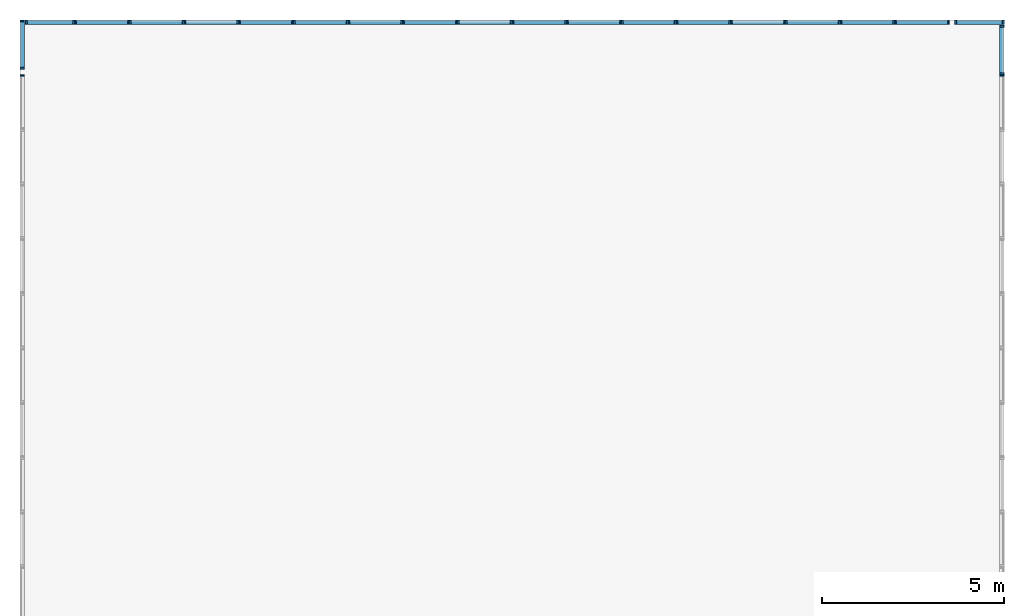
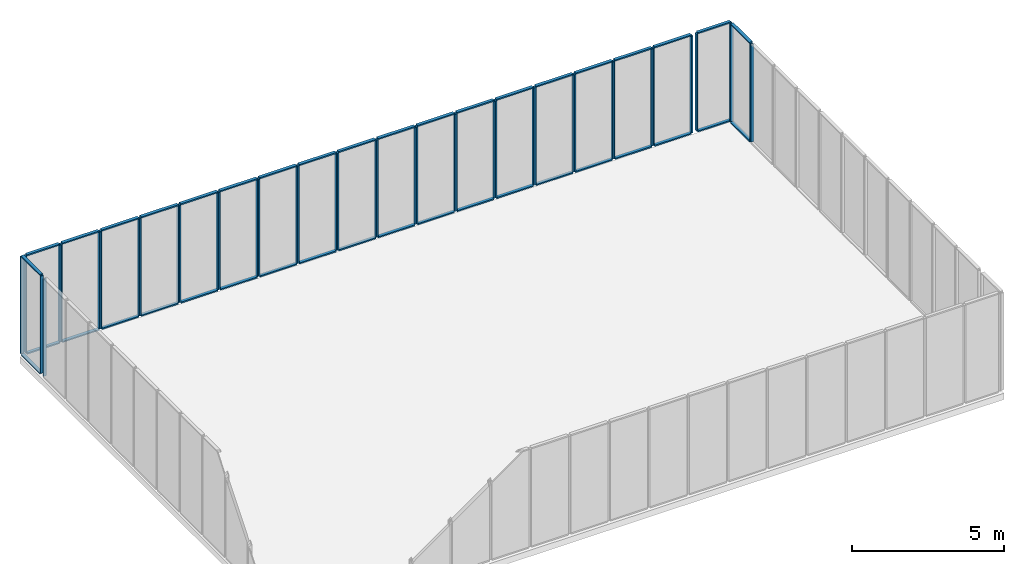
# One storey, part 3 of 4: 82 members.
"""IFC4 building model written with IfcOpenShell, lengths in metres."""

import ifcopenshell
import ifcopenshell.guid

model = None  # the IFC model being written
_history = None  # IfcOwnerHistory: only IFC2X3 demands one
_inside = {}  # id of a spatial element -> (the spatial element, [elements in it])
_under = {}  # id of a project, library or spatial element -> (it, [spatial elements below it])
_declared = {}  # id of a project -> (the project, [libraries it declares])
_typed = {}  # id of a type object -> (the type object, [elements of that type])
_made_of = {}  # id of a material, layer set ... -> (it, [elements and type objects made of it])


def new_model(schema):
    """Start an empty IFC model of exactly this schema.

    Asked for "IFC4X3", IfcOpenShell would pick the latest addendum, in which some entities
    have other attributes; the version numbers below select the first issue.
    IFC2X3 requires an IfcOwnerHistory on every rooted entity: one is made here for all.
    """
    global model, _history
    if schema == "IFC4X3":
        model = ifcopenshell.file(schema_version=(4, 3, 0, 0))
    else:
        model = ifcopenshell.file(schema=schema)
    _inside.clear()
    _under.clear()
    _declared.clear()
    _typed.clear()
    _made_of.clear()
    _history = None
    if model.schema == "IFC2X3":
        org = make("IfcOrganization", Name="unknown")
        user = make(
            "IfcPersonAndOrganization",
            ThePerson=make("IfcPerson", FamilyName="unknown"),
            TheOrganization=org,
        )
        app = make(
            "IfcApplication",
            ApplicationDeveloper=org,
            Version="unknown",
            ApplicationFullName="unknown",
            ApplicationIdentifier="unknown",
        )
        _history = make(
            "IfcOwnerHistory",
            OwningUser=user,
            OwningApplication=app,
            ChangeAction="ADDED",
            CreationDate=0,
        )
    return model


def make(cls, **values):
    """One entity of the class cls with the attributes given. An attribute that is None is left unset."""
    return model.create_entity(
        cls, **{name: value for name, value in values.items() if value is not None}
    )


def rooted(cls, **values):
    """An entity with a GlobalId (a new one), such as an element, a storey or a relation."""
    return make(cls, GlobalId=ifcopenshell.guid.new(), OwnerHistory=_history, **values)


def si_unit(unit_type, name, prefix=None):
    """IfcSIUnit, for example si_unit("LENGTHUNIT", "METRE", prefix="MILLI")."""
    return make("IfcSIUnit", UnitType=unit_type, Prefix=prefix, Name=name)


def assignment(units):
    """IfcUnitAssignment: the units of a project."""
    return None if units is None else make("IfcUnitAssignment", Units=units)


def point(xyz):
    """IfcCartesianPoint."""
    return None if xyz is None else make("IfcCartesianPoint", Coordinates=xyz)


def direction(xyz):
    """IfcDirection."""
    return None if xyz is None else make("IfcDirection", DirectionRatios=xyz)


def frame(location, z_axis=None, x_axis=None):
    """IfcAxis2Placement3D, a coordinate frame: its origin and axes. An axis left out is left unset."""
    return make(
        "IfcAxis2Placement3D",
        Location=point(location),
        Axis=direction(z_axis),
        RefDirection=direction(x_axis),
    )


def origin_with_axes():
    """The frame at (0, 0, 0) with the z axis (0, 0, 1) and the x axis (1, 0, 0) written out."""
    return frame((0.0, 0.0, 0.0), z_axis=(0.0, 0.0, 1.0), x_axis=(1.0, 0.0, 0.0))


def place(relative_to, where):
    """IfcLocalPlacement: puts the frame where relative to a parent placement (None: the world)."""
    return make(
        "IfcLocalPlacement", PlacementRelTo=relative_to, RelativePlacement=where
    )


def context(
    kind, dimensions, precision=None, world=None, true_north=None, identifier=None
):
    """IfcGeometricRepresentationContext, for example the 3D "Model" context."""
    return make(
        "IfcGeometricRepresentationContext",
        ContextIdentifier=identifier,
        ContextType=kind,
        CoordinateSpaceDimension=dimensions,
        Precision=precision,
        WorldCoordinateSystem=world,
        TrueNorth=true_north,
    )


def subcontext(parent, identifier, kind, view, scale=None):
    """IfcGeometricRepresentationSubContext, for example "Body" below "Model"."""
    return make(
        "IfcGeometricRepresentationSubContext",
        ContextIdentifier=identifier,
        ContextType=kind,
        ParentContext=parent,
        TargetScale=scale,
        TargetView=view,
    )


def project(units=None, contexts=None):
    """IfcProject with its units and contexts."""
    return rooted(
        "IfcProject",
        Name="project",
        RepresentationContexts=contexts,
        UnitsInContext=assignment(units),
    )


def spatial(cls, under=None, at=None, **own):
    """A site, building, storey or space (cls), placed at a placement, below another one or the project."""
    s = rooted(cls, ObjectPlacement=at, **own)
    if under is not None:
        _under.setdefault(under.id(), (under, []))[1].append(s)
    return s


def point_list(points):
    """IfcCartesianPointList2D or 3D."""
    cls = (
        "IfcCartesianPointList2D" if len(points[0]) == 2 else "IfcCartesianPointList3D"
    )
    return make(cls, CoordList=points)


def indexed_curve(points, segments=None, self_intersect=None):
    """IfcIndexedPolyCurve: lines and arcs through numbered points (the first is 1)."""
    return make(
        "IfcIndexedPolyCurve",
        Points=point_list(points),
        Segments=segments,
        SelfIntersect=self_intersect,
    )


def outline(outer, holes=None, kind="AREA"):
    """IfcArbitraryClosedProfileDef: a profile drawn as a closed curve; with holes, ...WithVoids."""
    if holes is None:
        return make("IfcArbitraryClosedProfileDef", ProfileType=kind, OuterCurve=outer)
    return make(
        "IfcArbitraryProfileDefWithVoids",
        ProfileType=kind,
        OuterCurve=outer,
        InnerCurves=holes,
    )


def extrude(swept, where, along, depth):
    """IfcExtrudedAreaSolid: the profile swept, set in the frame where, extruded along a direction by depth."""
    return make(
        "IfcExtrudedAreaSolid",
        SweptArea=swept,
        Position=where,
        ExtrudedDirection=direction(along),
        Depth=depth,
    )


def shape(context_of_items, identifier, shape_type, items):
    """IfcShapeRepresentation: the items that make up one representation, for example the "Body"."""
    return make(
        "IfcShapeRepresentation",
        ContextOfItems=context_of_items,
        RepresentationIdentifier=identifier,
        RepresentationType=shape_type,
        Items=items,
    )


def material(Name=None, Category=None):
    """IfcMaterial."""
    return make("IfcMaterial", Name=Name, Category=Category)


def made_of(thing, what):
    """Note that an element or type object is made of a material, layer set ...; save() writes the relation."""
    if what is not None:
        _made_of.setdefault(what.id(), (what, []))[1].append(thing)
    return thing


def element(
    cls,
    number,
    at=None,
    inside=None,
    cuts=None,
    type_object=None,
    material=None,
    context=None,
    identifier="Body",
    shape_type=None,
    held_by="IfcProductDefinitionShape",
    body=None,
    shapes=None,
    **own,
):
    """One element of the class cls, such as IfcWall. Its Tag is "e" and its number.

    at: its placement. inside: the storey or other place that contains it. cuts: it is an
    opening in that element (IfcRelVoidsElement). A single representation is given by context,
    identifier, shape_type and body (its items); several are given by shapes. held_by: the class
    of the entity that holds the representations. save() writes the other relations.
    """
    e = rooted(cls, Tag="e%d" % number, ObjectPlacement=at, **own)
    if body is not None:
        shapes = [shape(context, identifier, shape_type, body)]
    if shapes is not None:
        e.Representation = make(held_by, Representations=shapes)
    if inside is not None:
        _inside.setdefault(inside.id(), (inside, []))[1].append(e)
    if cuts is not None:
        rooted(
            "IfcRelVoidsElement", RelatingBuildingElement=cuts, RelatedOpeningElement=e
        )
    if type_object is not None:
        _typed.setdefault(type_object.id(), (type_object, []))[1].append(e)
    return made_of(e, material)


def aggregate(whole, parts):
    """IfcRelAggregates: a whole, such as a stair, and the parts it consists of."""
    return rooted("IfcRelAggregates", RelatingObject=whole, RelatedObjects=parts)


def save(model, path):
    """Write the relations noted so far, then the file.

    IfcRelAggregates (storeys below a building ...), IfcRelContainedInSpatialStructure (elements
    in a storey), IfcRelDefinesByType, IfcRelAssociatesMaterial and IfcRelDeclares: one each for
    every whole, place, type object, material and project.
    """
    for whole, parts in _under.values():
        aggregate(whole, parts)
    for where, things in _inside.values():
        rooted(
            "IfcRelContainedInSpatialStructure",
            RelatedElements=things,
            RelatingStructure=where,
        )
    for kind, things in _typed.values():
        rooted("IfcRelDefinesByType", RelatedObjects=things, RelatingType=kind)
    for what, things in _made_of.values():
        rooted("IfcRelAssociatesMaterial", RelatedObjects=things, RelatingMaterial=what)
    for by, libraries in _declared.values():
        rooted("IfcRelDeclares", RelatingContext=by, RelatedDefinitions=libraries)
    model.write(path)


model = new_model("IFC4")

# Units and contexts
model_context = context("Model", 3, precision=1e-05, world=origin_with_axes())
body_context = subcontext(model_context, "Body", "Model", "MODEL_VIEW")
ifc_project = project(units=[si_unit("AREAUNIT", "SQUARE_METRE"), si_unit("VOLUMEUNIT", "CUBIC_METRE"), si_unit("LENGTHUNIT", "METRE")], contexts=[model_context])

# Site, building, storey
site = spatial("IfcSite", under=ifc_project, Name="Synthetic Site")
building = spatial("IfcBuilding", under=site, Name="Complex Tower")
storey_placement = place(None, frame((0.0, 0.0, 4.2), z_axis=(0.0, 0.0, 1.0), x_axis=(1.0, 0.0, 0.0)))
storey = spatial("IfcBuildingStorey", under=building, at=storey_placement, Name="L02", Elevation=4.2)

# Members
ifc_material = material(Name="Aluminium")
for number, where, z_axis, x_axis, name in (
    (1, (27.0, 16.45, 0.15000000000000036), (0.0, 0.0, 1.0), (6.123233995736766e-17, 1.0, 0.0), "CT-L02-E-011-MR"),
    (2, (27.0, 16.5, 0.15000000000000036), (0.0, 0.0, 1.0), (6.123233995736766e-17, 1.0, 0.0), "CT-L02-E-012-ML"),
    (3, (27.0, 17.8, 0.15000000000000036), (0.0, 0.0, 1.0), (6.123233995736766e-17, 1.0, 0.0), "CT-L02-E-012-MR"),
):
    element("IfcMember", number, at=place(storey_placement, frame(where, z_axis=z_axis, x_axis=x_axis)), inside=storey, material=ifc_material, Name=name, PredefinedType="MULLION", context=body_context, shape_type="SweptSolid", body=[
        extrude(outline(indexed_curve([(0.0, 0.0), (0.0, 0.12), (0.05, 0.12), (0.05, 0.0), (0.0, 0.0)], self_intersect=False)), origin_with_axes(), (0.0, 0.0, 1.0), 3.9000000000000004),
    ])
for number, where, z_axis, x_axis, name in (
    (4, (27.0, 16.55, 0.10000000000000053), (0.0, 0.0, 1.0), (6.123233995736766e-17, 1.0, 0.0), "CT-L02-E-012-FB"),
    (5, (27.0, 16.55, 4.05), (0.0, 0.0, 1.0), (6.123233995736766e-17, 1.0, 0.0), "CT-L02-E-012-FT"),
):
    element("IfcMember", number, at=place(storey_placement, frame(where, z_axis=z_axis, x_axis=x_axis)), inside=storey, material=ifc_material, Name=name, PredefinedType="MULLION", context=body_context, shape_type="SweptSolid", body=[
        extrude(outline(indexed_curve([(0.0, 0.0), (0.0, 0.12), (1.25, 0.12), (1.25, 0.0), (0.0, 0.0)], self_intersect=False)), origin_with_axes(), (0.0, 0.0, 1.0), 0.05),
    ])
for number, where, z_axis, x_axis, name in (
    (6, (27.0, 18.0, 0.15000000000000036), (0.0, 0.0, 1.0), (-1.0, 1.2246467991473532e-16, 0.0), "CT-L02-N-001-ML"),
    (7, (25.7, 18.0, 0.15000000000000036), (0.0, 0.0, 1.0), (-1.0, 1.2246467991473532e-16, 0.0), "CT-L02-N-001-MR"),
):
    element("IfcMember", number, at=place(storey_placement, frame(where, z_axis=z_axis, x_axis=x_axis)), inside=storey, material=ifc_material, Name=name, PredefinedType="MULLION", context=body_context, shape_type="SweptSolid", body=[
        extrude(outline(indexed_curve([(0.0, 0.0), (0.0, 0.12), (0.05, 0.12), (0.05, 0.0), (0.0, 0.0)], self_intersect=False)), origin_with_axes(), (0.0, 0.0, 1.0), 3.9000000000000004),
    ])
for number, where, z_axis, x_axis, name in (
    (8, (26.95, 18.0, 0.10000000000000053), (0.0, 0.0, 1.0), (-1.0, 1.2246467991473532e-16, 0.0), "CT-L02-N-001-FB"),
    (9, (26.95, 18.0, 4.05), (0.0, 0.0, 1.0), (-1.0, 1.2246467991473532e-16, 0.0), "CT-L02-N-001-FT"),
):
    element("IfcMember", number, at=place(storey_placement, frame(where, z_axis=z_axis, x_axis=x_axis)), inside=storey, material=ifc_material, Name=name, PredefinedType="MULLION", context=body_context, shape_type="SweptSolid", body=[
        extrude(outline(indexed_curve([(0.0, 0.0), (0.0, 0.12), (1.25, 0.12), (1.25, 0.0), (0.0, 0.0)], self_intersect=False)), origin_with_axes(), (0.0, 0.0, 1.0), 0.05),
    ])
for number, where, z_axis, x_axis, name in (
    (10, (25.5, 18.0, 0.15000000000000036), (0.0, 0.0, 1.0), (-1.0, 1.2246467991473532e-16, 0.0), "CT-L02-N-002-ML"),
    (11, (24.05, 18.0, 0.15000000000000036), (0.0, 0.0, 1.0), (-1.0, 1.2246467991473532e-16, 0.0), "CT-L02-N-002-MR"),
):
    element("IfcMember", number, at=place(storey_placement, frame(where, z_axis=z_axis, x_axis=x_axis)), inside=storey, material=ifc_material, Name=name, PredefinedType="MULLION", context=body_context, shape_type="SweptSolid", body=[
        extrude(outline(indexed_curve([(0.0, 0.0), (0.0, 0.12), (0.05, 0.12), (0.05, 0.0), (0.0, 0.0)], self_intersect=False)), origin_with_axes(), (0.0, 0.0, 1.0), 3.9000000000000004),
    ])
for number, where, z_axis, x_axis, name in (
    (12, (25.45, 18.0, 0.10000000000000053), (0.0, 0.0, 1.0), (-1.0, 1.2246467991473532e-16, 0.0), "CT-L02-N-002-FB"),
    (13, (25.45, 18.0, 4.05), (0.0, 0.0, 1.0), (-1.0, 1.2246467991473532e-16, 0.0), "CT-L02-N-002-FT"),
):
    element("IfcMember", number, at=place(storey_placement, frame(where, z_axis=z_axis, x_axis=x_axis)), inside=storey, material=ifc_material, Name=name, PredefinedType="MULLION", context=body_context, shape_type="SweptSolid", body=[
        extrude(outline(indexed_curve([(0.0, 0.0), (0.0, 0.12), (1.4, 0.12), (1.4, 0.0), (0.0, 0.0)], self_intersect=False)), origin_with_axes(), (0.0, 0.0, 1.0), 0.05),
    ])
for number, where, z_axis, x_axis, name in (
    (14, (24.0, 18.0, 0.15000000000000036), (0.0, 0.0, 1.0), (-1.0, 1.2246467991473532e-16, 0.0), "CT-L02-N-003-ML"),
    (15, (22.55, 18.0, 0.15000000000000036), (0.0, 0.0, 1.0), (-1.0, 1.2246467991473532e-16, 0.0), "CT-L02-N-003-MR"),
):
    element("IfcMember", number, at=place(storey_placement, frame(where, z_axis=z_axis, x_axis=x_axis)), inside=storey, material=ifc_material, Name=name, PredefinedType="MULLION", context=body_context, shape_type="SweptSolid", body=[
        extrude(outline(indexed_curve([(0.0, 0.0), (0.0, 0.12), (0.05, 0.12), (0.05, 0.0), (0.0, 0.0)], self_intersect=False)), origin_with_axes(), (0.0, 0.0, 1.0), 3.9000000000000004),
    ])
for number, where, z_axis, x_axis, name in (
    (16, (23.95, 18.0, 0.10000000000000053), (0.0, 0.0, 1.0), (-1.0, 1.2246467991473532e-16, 0.0), "CT-L02-N-003-FB"),
    (17, (23.95, 18.0, 4.05), (0.0, 0.0, 1.0), (-1.0, 1.2246467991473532e-16, 0.0), "CT-L02-N-003-FT"),
):
    element("IfcMember", number, at=place(storey_placement, frame(where, z_axis=z_axis, x_axis=x_axis)), inside=storey, material=ifc_material, Name=name, PredefinedType="MULLION", context=body_context, shape_type="SweptSolid", body=[
        extrude(outline(indexed_curve([(0.0, 0.0), (0.0, 0.12), (1.4, 0.12), (1.4, 0.0), (0.0, 0.0)], self_intersect=False)), origin_with_axes(), (0.0, 0.0, 1.0), 0.05),
    ])
for number, where, z_axis, x_axis, name in (
    (18, (22.5, 18.0, 0.15000000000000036), (0.0, 0.0, 1.0), (-1.0, 1.2246467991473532e-16, 0.0), "CT-L02-N-004-ML"),
    (19, (21.05, 18.0, 0.15000000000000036), (0.0, 0.0, 1.0), (-1.0, 1.2246467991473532e-16, 0.0), "CT-L02-N-004-MR"),
):
    element("IfcMember", number, at=place(storey_placement, frame(where, z_axis=z_axis, x_axis=x_axis)), inside=storey, material=ifc_material, Name=name, PredefinedType="MULLION", context=body_context, shape_type="SweptSolid", body=[
        extrude(outline(indexed_curve([(0.0, 0.0), (0.0, 0.12), (0.05, 0.12), (0.05, 0.0), (0.0, 0.0)], self_intersect=False)), origin_with_axes(), (0.0, 0.0, 1.0), 3.9000000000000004),
    ])
for number, where, z_axis, x_axis, name in (
    (20, (22.45, 18.0, 0.10000000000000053), (0.0, 0.0, 1.0), (-1.0, 1.2246467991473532e-16, 0.0), "CT-L02-N-004-FB"),
    (21, (22.45, 18.0, 4.05), (0.0, 0.0, 1.0), (-1.0, 1.2246467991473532e-16, 0.0), "CT-L02-N-004-FT"),
):
    element("IfcMember", number, at=place(storey_placement, frame(where, z_axis=z_axis, x_axis=x_axis)), inside=storey, material=ifc_material, Name=name, PredefinedType="MULLION", context=body_context, shape_type="SweptSolid", body=[
        extrude(outline(indexed_curve([(0.0, 0.0), (0.0, 0.12), (1.4, 0.12), (1.4, 0.0), (0.0, 0.0)], self_intersect=False)), origin_with_axes(), (0.0, 0.0, 1.0), 0.05),
    ])
for number, where, z_axis, x_axis, name in (
    (22, (21.0, 18.0, 0.15000000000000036), (0.0, 0.0, 1.0), (-1.0, 1.2246467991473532e-16, 0.0), "CT-L02-N-005-ML"),
    (23, (19.55, 18.0, 0.15000000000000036), (0.0, 0.0, 1.0), (-1.0, 1.2246467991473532e-16, 0.0), "CT-L02-N-005-MR"),
):
    element("IfcMember", number, at=place(storey_placement, frame(where, z_axis=z_axis, x_axis=x_axis)), inside=storey, material=ifc_material, Name=name, PredefinedType="MULLION", context=body_context, shape_type="SweptSolid", body=[
        extrude(outline(indexed_curve([(0.0, 0.0), (0.0, 0.12), (0.05, 0.12), (0.05, 0.0), (0.0, 0.0)], self_intersect=False)), origin_with_axes(), (0.0, 0.0, 1.0), 3.9000000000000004),
    ])
for number, where, z_axis, x_axis, name in (
    (24, (20.95, 18.0, 0.10000000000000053), (0.0, 0.0, 1.0), (-1.0, 1.2246467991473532e-16, 0.0), "CT-L02-N-005-FB"),
    (25, (20.95, 18.0, 4.05), (0.0, 0.0, 1.0), (-1.0, 1.2246467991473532e-16, 0.0), "CT-L02-N-005-FT"),
):
    element("IfcMember", number, at=place(storey_placement, frame(where, z_axis=z_axis, x_axis=x_axis)), inside=storey, material=ifc_material, Name=name, PredefinedType="MULLION", context=body_context, shape_type="SweptSolid", body=[
        extrude(outline(indexed_curve([(0.0, 0.0), (0.0, 0.12), (1.4, 0.12), (1.4, 0.0), (0.0, 0.0)], self_intersect=False)), origin_with_axes(), (0.0, 0.0, 1.0), 0.05),
    ])
for number, where, z_axis, x_axis, name in (
    (26, (19.5, 18.0, 0.15000000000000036), (0.0, 0.0, 1.0), (-1.0, 1.2246467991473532e-16, 0.0), "CT-L02-N-006-ML"),
    (27, (18.05, 18.0, 0.15000000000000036), (0.0, 0.0, 1.0), (-1.0, 1.2246467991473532e-16, 0.0), "CT-L02-N-006-MR"),
):
    element("IfcMember", number, at=place(storey_placement, frame(where, z_axis=z_axis, x_axis=x_axis)), inside=storey, material=ifc_material, Name=name, PredefinedType="MULLION", context=body_context, shape_type="SweptSolid", body=[
        extrude(outline(indexed_curve([(0.0, 0.0), (0.0, 0.12), (0.05, 0.12), (0.05, 0.0), (0.0, 0.0)], self_intersect=False)), origin_with_axes(), (0.0, 0.0, 1.0), 3.9000000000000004),
    ])
for number, where, z_axis, x_axis, name in (
    (28, (19.45, 18.0, 0.10000000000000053), (0.0, 0.0, 1.0), (-1.0, 1.2246467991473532e-16, 0.0), "CT-L02-N-006-FB"),
    (29, (19.45, 18.0, 4.05), (0.0, 0.0, 1.0), (-1.0, 1.2246467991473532e-16, 0.0), "CT-L02-N-006-FT"),
):
    element("IfcMember", number, at=place(storey_placement, frame(where, z_axis=z_axis, x_axis=x_axis)), inside=storey, material=ifc_material, Name=name, PredefinedType="MULLION", context=body_context, shape_type="SweptSolid", body=[
        extrude(outline(indexed_curve([(0.0, 0.0), (0.0, 0.12), (1.4, 0.12), (1.4, 0.0), (0.0, 0.0)], self_intersect=False)), origin_with_axes(), (0.0, 0.0, 1.0), 0.05),
    ])
for number, where, z_axis, x_axis, name in (
    (30, (18.0, 18.0, 0.15000000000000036), (0.0, 0.0, 1.0), (-1.0, 1.2246467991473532e-16, 0.0), "CT-L02-N-007-ML"),
    (31, (16.55, 18.0, 0.15000000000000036), (0.0, 0.0, 1.0), (-1.0, 1.2246467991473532e-16, 0.0), "CT-L02-N-007-MR"),
):
    element("IfcMember", number, at=place(storey_placement, frame(where, z_axis=z_axis, x_axis=x_axis)), inside=storey, material=ifc_material, Name=name, PredefinedType="MULLION", context=body_context, shape_type="SweptSolid", body=[
        extrude(outline(indexed_curve([(0.0, 0.0), (0.0, 0.12), (0.05, 0.12), (0.05, 0.0), (0.0, 0.0)], self_intersect=False)), origin_with_axes(), (0.0, 0.0, 1.0), 3.9000000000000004),
    ])
for number, where, z_axis, x_axis, name in (
    (32, (17.95, 18.0, 0.10000000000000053), (0.0, 0.0, 1.0), (-1.0, 1.2246467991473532e-16, 0.0), "CT-L02-N-007-FB"),
    (33, (17.95, 18.0, 4.05), (0.0, 0.0, 1.0), (-1.0, 1.2246467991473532e-16, 0.0), "CT-L02-N-007-FT"),
):
    element("IfcMember", number, at=place(storey_placement, frame(where, z_axis=z_axis, x_axis=x_axis)), inside=storey, material=ifc_material, Name=name, PredefinedType="MULLION", context=body_context, shape_type="SweptSolid", body=[
        extrude(outline(indexed_curve([(0.0, 0.0), (0.0, 0.12), (1.4, 0.12), (1.4, 0.0), (0.0, 0.0)], self_intersect=False)), origin_with_axes(), (0.0, 0.0, 1.0), 0.05),
    ])
for number, where, z_axis, x_axis, name in (
    (34, (16.5, 18.0, 0.15000000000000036), (0.0, 0.0, 1.0), (-1.0, 1.2246467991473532e-16, 0.0), "CT-L02-N-008-ML"),
    (35, (15.049999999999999, 18.0, 0.15000000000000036), (0.0, 0.0, 1.0), (-1.0, 1.2246467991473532e-16, 0.0), "CT-L02-N-008-MR"),
):
    element("IfcMember", number, at=place(storey_placement, frame(where, z_axis=z_axis, x_axis=x_axis)), inside=storey, material=ifc_material, Name=name, PredefinedType="MULLION", context=body_context, shape_type="SweptSolid", body=[
        extrude(outline(indexed_curve([(0.0, 0.0), (0.0, 0.12), (0.05, 0.12), (0.05, 0.0), (0.0, 0.0)], self_intersect=False)), origin_with_axes(), (0.0, 0.0, 1.0), 3.9000000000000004),
    ])
for number, where, z_axis, x_axis, name in (
    (36, (16.45, 18.0, 0.10000000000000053), (0.0, 0.0, 1.0), (-1.0, 1.2246467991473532e-16, 0.0), "CT-L02-N-008-FB"),
    (37, (16.45, 18.0, 4.05), (0.0, 0.0, 1.0), (-1.0, 1.2246467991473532e-16, 0.0), "CT-L02-N-008-FT"),
):
    element("IfcMember", number, at=place(storey_placement, frame(where, z_axis=z_axis, x_axis=x_axis)), inside=storey, material=ifc_material, Name=name, PredefinedType="MULLION", context=body_context, shape_type="SweptSolid", body=[
        extrude(outline(indexed_curve([(0.0, 0.0), (0.0, 0.12), (1.4, 0.12), (1.4, 0.0), (0.0, 0.0)], self_intersect=False)), origin_with_axes(), (0.0, 0.0, 1.0), 0.05),
    ])
for number, where, z_axis, x_axis, name in (
    (38, (15.0, 18.0, 0.15000000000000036), (0.0, 0.0, 1.0), (-1.0, 1.2246467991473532e-16, 0.0), "CT-L02-N-009-ML"),
    (39, (13.549999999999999, 18.0, 0.15000000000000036), (0.0, 0.0, 1.0), (-1.0, 1.2246467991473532e-16, 0.0), "CT-L02-N-009-MR"),
):
    element("IfcMember", number, at=place(storey_placement, frame(where, z_axis=z_axis, x_axis=x_axis)), inside=storey, material=ifc_material, Name=name, PredefinedType="MULLION", context=body_context, shape_type="SweptSolid", body=[
        extrude(outline(indexed_curve([(0.0, 0.0), (0.0, 0.12), (0.05, 0.12), (0.05, 0.0), (0.0, 0.0)], self_intersect=False)), origin_with_axes(), (0.0, 0.0, 1.0), 3.9000000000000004),
    ])
for number, where, z_axis, x_axis, name in (
    (40, (14.95, 18.0, 0.10000000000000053), (0.0, 0.0, 1.0), (-1.0, 1.2246467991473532e-16, 0.0), "CT-L02-N-009-FB"),
    (41, (14.95, 18.0, 4.05), (0.0, 0.0, 1.0), (-1.0, 1.2246467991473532e-16, 0.0), "CT-L02-N-009-FT"),
):
    element("IfcMember", number, at=place(storey_placement, frame(where, z_axis=z_axis, x_axis=x_axis)), inside=storey, material=ifc_material, Name=name, PredefinedType="MULLION", context=body_context, shape_type="SweptSolid", body=[
        extrude(outline(indexed_curve([(0.0, 0.0), (0.0, 0.12), (1.4, 0.12), (1.4, 0.0), (0.0, 0.0)], self_intersect=False)), origin_with_axes(), (0.0, 0.0, 1.0), 0.05),
    ])
for number, where, z_axis, x_axis, name in (
    (42, (13.5, 18.0, 0.15000000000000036), (0.0, 0.0, 1.0), (-1.0, 1.2246467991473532e-16, 0.0), "CT-L02-N-010-ML"),
    (43, (12.049999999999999, 18.0, 0.15000000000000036), (0.0, 0.0, 1.0), (-1.0, 1.2246467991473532e-16, 0.0), "CT-L02-N-010-MR"),
):
    element("IfcMember", number, at=place(storey_placement, frame(where, z_axis=z_axis, x_axis=x_axis)), inside=storey, material=ifc_material, Name=name, PredefinedType="MULLION", context=body_context, shape_type="SweptSolid", body=[
        extrude(outline(indexed_curve([(0.0, 0.0), (0.0, 0.12), (0.05, 0.12), (0.05, 0.0), (0.0, 0.0)], self_intersect=False)), origin_with_axes(), (0.0, 0.0, 1.0), 3.9000000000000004),
    ])
for number, where, z_axis, x_axis, name in (
    (44, (13.45, 18.0, 0.10000000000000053), (0.0, 0.0, 1.0), (-1.0, 1.2246467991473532e-16, 0.0), "CT-L02-N-010-FB"),
    (45, (13.45, 18.0, 4.05), (0.0, 0.0, 1.0), (-1.0, 1.2246467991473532e-16, 0.0), "CT-L02-N-010-FT"),
):
    element("IfcMember", number, at=place(storey_placement, frame(where, z_axis=z_axis, x_axis=x_axis)), inside=storey, material=ifc_material, Name=name, PredefinedType="MULLION", context=body_context, shape_type="SweptSolid", body=[
        extrude(outline(indexed_curve([(0.0, 0.0), (0.0, 0.12), (1.4, 0.12), (1.4, 0.0), (0.0, 0.0)], self_intersect=False)), origin_with_axes(), (0.0, 0.0, 1.0), 0.05),
    ])
for number, where, z_axis, x_axis, name in (
    (46, (12.0, 18.000000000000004, 0.15000000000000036), (0.0, 0.0, 1.0), (-1.0, 1.2246467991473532e-16, 0.0), "CT-L02-N-011-ML"),
    (47, (10.549999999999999, 18.000000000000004, 0.15000000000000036), (0.0, 0.0, 1.0), (-1.0, 1.2246467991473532e-16, 0.0), "CT-L02-N-011-MR"),
):
    element("IfcMember", number, at=place(storey_placement, frame(where, z_axis=z_axis, x_axis=x_axis)), inside=storey, material=ifc_material, Name=name, PredefinedType="MULLION", context=body_context, shape_type="SweptSolid", body=[
        extrude(outline(indexed_curve([(0.0, 0.0), (0.0, 0.12), (0.05, 0.12), (0.05, 0.0), (0.0, 0.0)], self_intersect=False)), origin_with_axes(), (0.0, 0.0, 1.0), 3.9000000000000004),
    ])
for number, where, z_axis, x_axis, name in (
    (48, (11.95, 18.000000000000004, 0.10000000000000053), (0.0, 0.0, 1.0), (-1.0, 1.2246467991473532e-16, 0.0), "CT-L02-N-011-FB"),
    (49, (11.95, 18.000000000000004, 4.05), (0.0, 0.0, 1.0), (-1.0, 1.2246467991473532e-16, 0.0), "CT-L02-N-011-FT"),
):
    element("IfcMember", number, at=place(storey_placement, frame(where, z_axis=z_axis, x_axis=x_axis)), inside=storey, material=ifc_material, Name=name, PredefinedType="MULLION", context=body_context, shape_type="SweptSolid", body=[
        extrude(outline(indexed_curve([(0.0, 0.0), (0.0, 0.12), (1.4, 0.12), (1.4, 0.0), (0.0, 0.0)], self_intersect=False)), origin_with_axes(), (0.0, 0.0, 1.0), 0.05),
    ])
for number, where, z_axis, x_axis, name in (
    (50, (10.5, 18.000000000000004, 0.15000000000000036), (0.0, 0.0, 1.0), (-1.0, 1.2246467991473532e-16, 0.0), "CT-L02-N-012-ML"),
    (51, (9.049999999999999, 18.000000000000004, 0.15000000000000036), (0.0, 0.0, 1.0), (-1.0, 1.2246467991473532e-16, 0.0), "CT-L02-N-012-MR"),
):
    element("IfcMember", number, at=place(storey_placement, frame(where, z_axis=z_axis, x_axis=x_axis)), inside=storey, material=ifc_material, Name=name, PredefinedType="MULLION", context=body_context, shape_type="SweptSolid", body=[
        extrude(outline(indexed_curve([(0.0, 0.0), (0.0, 0.12), (0.05, 0.12), (0.05, 0.0), (0.0, 0.0)], self_intersect=False)), origin_with_axes(), (0.0, 0.0, 1.0), 3.9000000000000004),
    ])
for number, where, z_axis, x_axis, name in (
    (52, (10.45, 18.000000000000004, 0.10000000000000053), (0.0, 0.0, 1.0), (-1.0, 1.2246467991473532e-16, 0.0), "CT-L02-N-012-FB"),
    (53, (10.45, 18.000000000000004, 4.05), (0.0, 0.0, 1.0), (-1.0, 1.2246467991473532e-16, 0.0), "CT-L02-N-012-FT"),
):
    element("IfcMember", number, at=place(storey_placement, frame(where, z_axis=z_axis, x_axis=x_axis)), inside=storey, material=ifc_material, Name=name, PredefinedType="MULLION", context=body_context, shape_type="SweptSolid", body=[
        extrude(outline(indexed_curve([(0.0, 0.0), (0.0, 0.12), (1.4, 0.12), (1.4, 0.0), (0.0, 0.0)], self_intersect=False)), origin_with_axes(), (0.0, 0.0, 1.0), 0.05),
    ])
for number, where, z_axis, x_axis, name in (
    (54, (9.0, 18.000000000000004, 0.15000000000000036), (0.0, 0.0, 1.0), (-1.0, 1.2246467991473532e-16, 0.0), "CT-L02-N-013-ML"),
    (55, (7.549999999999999, 18.000000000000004, 0.15000000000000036), (0.0, 0.0, 1.0), (-1.0, 1.2246467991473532e-16, 0.0), "CT-L02-N-013-MR"),
):
    element("IfcMember", number, at=place(storey_placement, frame(where, z_axis=z_axis, x_axis=x_axis)), inside=storey, material=ifc_material, Name=name, PredefinedType="MULLION", context=body_context, shape_type="SweptSolid", body=[
        extrude(outline(indexed_curve([(0.0, 0.0), (0.0, 0.12), (0.05, 0.12), (0.05, 0.0), (0.0, 0.0)], self_intersect=False)), origin_with_axes(), (0.0, 0.0, 1.0), 3.9000000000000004),
    ])
for number, where, z_axis, x_axis, name in (
    (56, (8.95, 18.000000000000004, 0.10000000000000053), (0.0, 0.0, 1.0), (-1.0, 1.2246467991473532e-16, 0.0), "CT-L02-N-013-FB"),
    (57, (8.95, 18.000000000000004, 4.05), (0.0, 0.0, 1.0), (-1.0, 1.2246467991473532e-16, 0.0), "CT-L02-N-013-FT"),
):
    element("IfcMember", number, at=place(storey_placement, frame(where, z_axis=z_axis, x_axis=x_axis)), inside=storey, material=ifc_material, Name=name, PredefinedType="MULLION", context=body_context, shape_type="SweptSolid", body=[
        extrude(outline(indexed_curve([(0.0, 0.0), (0.0, 0.12), (1.4, 0.12), (1.4, 0.0), (0.0, 0.0)], self_intersect=False)), origin_with_axes(), (0.0, 0.0, 1.0), 0.05),
    ])
for number, where, z_axis, x_axis, name in (
    (58, (7.499999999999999, 18.000000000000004, 0.15000000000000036), (0.0, 0.0, 1.0), (-1.0, 1.2246467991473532e-16, 0.0), "CT-L02-N-014-ML"),
    (59, (6.049999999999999, 18.000000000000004, 0.15000000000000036), (0.0, 0.0, 1.0), (-1.0, 1.2246467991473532e-16, 0.0), "CT-L02-N-014-MR"),
):
    element("IfcMember", number, at=place(storey_placement, frame(where, z_axis=z_axis, x_axis=x_axis)), inside=storey, material=ifc_material, Name=name, PredefinedType="MULLION", context=body_context, shape_type="SweptSolid", body=[
        extrude(outline(indexed_curve([(0.0, 0.0), (0.0, 0.12), (0.05, 0.12), (0.05, 0.0), (0.0, 0.0)], self_intersect=False)), origin_with_axes(), (0.0, 0.0, 1.0), 3.9000000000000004),
    ])
for number, where, z_axis, x_axis, name in (
    (60, (7.449999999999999, 18.000000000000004, 0.10000000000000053), (0.0, 0.0, 1.0), (-1.0, 1.2246467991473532e-16, 0.0), "CT-L02-N-014-FB"),
    (61, (7.449999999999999, 18.000000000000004, 4.05), (0.0, 0.0, 1.0), (-1.0, 1.2246467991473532e-16, 0.0), "CT-L02-N-014-FT"),
):
    element("IfcMember", number, at=place(storey_placement, frame(where, z_axis=z_axis, x_axis=x_axis)), inside=storey, material=ifc_material, Name=name, PredefinedType="MULLION", context=body_context, shape_type="SweptSolid", body=[
        extrude(outline(indexed_curve([(0.0, 0.0), (0.0, 0.12), (1.4, 0.12), (1.4, 0.0), (0.0, 0.0)], self_intersect=False)), origin_with_axes(), (0.0, 0.0, 1.0), 0.05),
    ])
for number, where, z_axis, x_axis, name in (
    (62, (5.999999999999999, 18.000000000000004, 0.15000000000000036), (0.0, 0.0, 1.0), (-1.0, 1.2246467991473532e-16, 0.0), "CT-L02-N-015-ML"),
    (63, (4.549999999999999, 18.000000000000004, 0.15000000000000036), (0.0, 0.0, 1.0), (-1.0, 1.2246467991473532e-16, 0.0), "CT-L02-N-015-MR"),
):
    element("IfcMember", number, at=place(storey_placement, frame(where, z_axis=z_axis, x_axis=x_axis)), inside=storey, material=ifc_material, Name=name, PredefinedType="MULLION", context=body_context, shape_type="SweptSolid", body=[
        extrude(outline(indexed_curve([(0.0, 0.0), (0.0, 0.12), (0.05, 0.12), (0.05, 0.0), (0.0, 0.0)], self_intersect=False)), origin_with_axes(), (0.0, 0.0, 1.0), 3.9000000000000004),
    ])
for number, where, z_axis, x_axis, name in (
    (64, (5.949999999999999, 18.000000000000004, 0.10000000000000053), (0.0, 0.0, 1.0), (-1.0, 1.2246467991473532e-16, 0.0), "CT-L02-N-015-FB"),
    (65, (5.949999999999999, 18.000000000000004, 4.05), (0.0, 0.0, 1.0), (-1.0, 1.2246467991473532e-16, 0.0), "CT-L02-N-015-FT"),
):
    element("IfcMember", number, at=place(storey_placement, frame(where, z_axis=z_axis, x_axis=x_axis)), inside=storey, material=ifc_material, Name=name, PredefinedType="MULLION", context=body_context, shape_type="SweptSolid", body=[
        extrude(outline(indexed_curve([(0.0, 0.0), (0.0, 0.12), (1.4, 0.12), (1.4, 0.0), (0.0, 0.0)], self_intersect=False)), origin_with_axes(), (0.0, 0.0, 1.0), 0.05),
    ])
for number, where, z_axis, x_axis, name in (
    (66, (4.499999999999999, 18.000000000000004, 0.15000000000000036), (0.0, 0.0, 1.0), (-1.0, 1.2246467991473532e-16, 0.0), "CT-L02-N-016-ML"),
    (67, (3.0499999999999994, 18.000000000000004, 0.15000000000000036), (0.0, 0.0, 1.0), (-1.0, 1.2246467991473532e-16, 0.0), "CT-L02-N-016-MR"),
):
    element("IfcMember", number, at=place(storey_placement, frame(where, z_axis=z_axis, x_axis=x_axis)), inside=storey, material=ifc_material, Name=name, PredefinedType="MULLION", context=body_context, shape_type="SweptSolid", body=[
        extrude(outline(indexed_curve([(0.0, 0.0), (0.0, 0.12), (0.05, 0.12), (0.05, 0.0), (0.0, 0.0)], self_intersect=False)), origin_with_axes(), (0.0, 0.0, 1.0), 3.9000000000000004),
    ])
for number, where, z_axis, x_axis, name in (
    (68, (4.449999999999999, 18.000000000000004, 0.10000000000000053), (0.0, 0.0, 1.0), (-1.0, 1.2246467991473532e-16, 0.0), "CT-L02-N-016-FB"),
    (69, (4.449999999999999, 18.000000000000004, 4.05), (0.0, 0.0, 1.0), (-1.0, 1.2246467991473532e-16, 0.0), "CT-L02-N-016-FT"),
):
    element("IfcMember", number, at=place(storey_placement, frame(where, z_axis=z_axis, x_axis=x_axis)), inside=storey, material=ifc_material, Name=name, PredefinedType="MULLION", context=body_context, shape_type="SweptSolid", body=[
        extrude(outline(indexed_curve([(0.0, 0.0), (0.0, 0.12), (1.4, 0.12), (1.4, 0.0), (0.0, 0.0)], self_intersect=False)), origin_with_axes(), (0.0, 0.0, 1.0), 0.05),
    ])
for number, where, z_axis, x_axis, name in (
    (70, (2.999999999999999, 18.000000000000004, 0.15000000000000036), (0.0, 0.0, 1.0), (-1.0, 1.2246467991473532e-16, 0.0), "CT-L02-N-017-ML"),
    (71, (1.5499999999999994, 18.000000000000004, 0.15000000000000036), (0.0, 0.0, 1.0), (-1.0, 1.2246467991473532e-16, 0.0), "CT-L02-N-017-MR"),
):
    element("IfcMember", number, at=place(storey_placement, frame(where, z_axis=z_axis, x_axis=x_axis)), inside=storey, material=ifc_material, Name=name, PredefinedType="MULLION", context=body_context, shape_type="SweptSolid", body=[
        extrude(outline(indexed_curve([(0.0, 0.0), (0.0, 0.12), (0.05, 0.12), (0.05, 0.0), (0.0, 0.0)], self_intersect=False)), origin_with_axes(), (0.0, 0.0, 1.0), 3.9000000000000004),
    ])
for number, where, z_axis, x_axis, name in (
    (72, (2.9499999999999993, 18.000000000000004, 0.10000000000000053), (0.0, 0.0, 1.0), (-1.0, 1.2246467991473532e-16, 0.0), "CT-L02-N-017-FB"),
    (73, (2.9499999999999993, 18.000000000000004, 4.05), (0.0, 0.0, 1.0), (-1.0, 1.2246467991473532e-16, 0.0), "CT-L02-N-017-FT"),
):
    element("IfcMember", number, at=place(storey_placement, frame(where, z_axis=z_axis, x_axis=x_axis)), inside=storey, material=ifc_material, Name=name, PredefinedType="MULLION", context=body_context, shape_type="SweptSolid", body=[
        extrude(outline(indexed_curve([(0.0, 0.0), (0.0, 0.12), (1.4, 0.12), (1.4, 0.0), (0.0, 0.0)], self_intersect=False)), origin_with_axes(), (0.0, 0.0, 1.0), 0.05),
    ])
for number, where, z_axis, x_axis, name in (
    (74, (1.4999999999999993, 18.000000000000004, 0.15000000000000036), (0.0, 0.0, 1.0), (-1.0, 1.2246467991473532e-16, 0.0), "CT-L02-N-018-ML"),
    (75, (0.1999999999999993, 18.000000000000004, 0.15000000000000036), (0.0, 0.0, 1.0), (-1.0, 1.2246467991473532e-16, 0.0), "CT-L02-N-018-MR"),
):
    element("IfcMember", number, at=place(storey_placement, frame(where, z_axis=z_axis, x_axis=x_axis)), inside=storey, material=ifc_material, Name=name, PredefinedType="MULLION", context=body_context, shape_type="SweptSolid", body=[
        extrude(outline(indexed_curve([(0.0, 0.0), (0.0, 0.12), (0.05, 0.12), (0.05, 0.0), (0.0, 0.0)], self_intersect=False)), origin_with_axes(), (0.0, 0.0, 1.0), 3.9000000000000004),
    ])
for number, where, z_axis, x_axis, name in (
    (76, (1.4499999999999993, 18.000000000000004, 0.10000000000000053), (0.0, 0.0, 1.0), (-1.0, 1.2246467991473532e-16, 0.0), "CT-L02-N-018-FB"),
    (77, (1.4499999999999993, 18.000000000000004, 4.05), (0.0, 0.0, 1.0), (-1.0, 1.2246467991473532e-16, 0.0), "CT-L02-N-018-FT"),
):
    element("IfcMember", number, at=place(storey_placement, frame(where, z_axis=z_axis, x_axis=x_axis)), inside=storey, material=ifc_material, Name=name, PredefinedType="MULLION", context=body_context, shape_type="SweptSolid", body=[
        extrude(outline(indexed_curve([(0.0, 0.0), (0.0, 0.12), (1.25, 0.12), (1.25, 0.0), (0.0, 0.0)], self_intersect=False)), origin_with_axes(), (0.0, 0.0, 1.0), 0.05),
    ])
for number, where, z_axis, x_axis, name in (
    (78, (0.0, 18.0, 0.15000000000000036), (0.0, 0.0, 1.0), (-1.8369701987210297e-16, -1.0, 0.0), "CT-L02-W-001-ML"),
    (79, (-2.3880612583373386e-16, 16.7, 0.15000000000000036), (0.0, 0.0, 1.0), (-1.8369701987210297e-16, -1.0, 0.0), "CT-L02-W-001-MR"),
):
    element("IfcMember", number, at=place(storey_placement, frame(where, z_axis=z_axis, x_axis=x_axis)), inside=storey, material=ifc_material, Name=name, PredefinedType="MULLION", context=body_context, shape_type="SweptSolid", body=[
        extrude(outline(indexed_curve([(0.0, 0.0), (0.0, 0.12), (0.05, 0.12), (0.05, 0.0), (0.0, 0.0)], self_intersect=False)), origin_with_axes(), (0.0, 0.0, 1.0), 3.9000000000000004),
    ])
for number, where, z_axis, x_axis, name in (
    (80, (-9.184850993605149e-18, 17.95, 0.10000000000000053), (0.0, 0.0, 1.0), (-1.8369701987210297e-16, -1.0, 0.0), "CT-L02-W-001-FB"),
    (81, (-9.184850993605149e-18, 17.95, 4.05), (0.0, 0.0, 1.0), (-1.8369701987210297e-16, -1.0, 0.0), "CT-L02-W-001-FT"),
):
    element("IfcMember", number, at=place(storey_placement, frame(where, z_axis=z_axis, x_axis=x_axis)), inside=storey, material=ifc_material, Name=name, PredefinedType="MULLION", context=body_context, shape_type="SweptSolid", body=[
        extrude(outline(indexed_curve([(0.0, 0.0), (0.0, 0.12), (1.25, 0.12), (1.25, 0.0), (0.0, 0.0)], self_intersect=False)), origin_with_axes(), (0.0, 0.0, 1.0), 0.05),
    ])
member_placement = place(storey_placement, frame((-2.7554552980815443e-16, 16.5, 0.15000000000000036), z_axis=(0.0, 0.0, 1.0), x_axis=(-1.8369701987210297e-16, -1.0, 0.0)))
element("IfcMember", 82, at=member_placement, inside=storey, material=ifc_material, Name="CT-L02-W-002-ML", PredefinedType="MULLION", context=body_context, shape_type="SweptSolid", body=[
    extrude(outline(indexed_curve([(0.0, 0.0), (0.0, 0.12), (0.05, 0.12), (0.05, 0.0), (0.0, 0.0)], self_intersect=False)), origin_with_axes(), (0.0, 0.0, 1.0), 3.9000000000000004),
])

save(model, "model.ifc")
